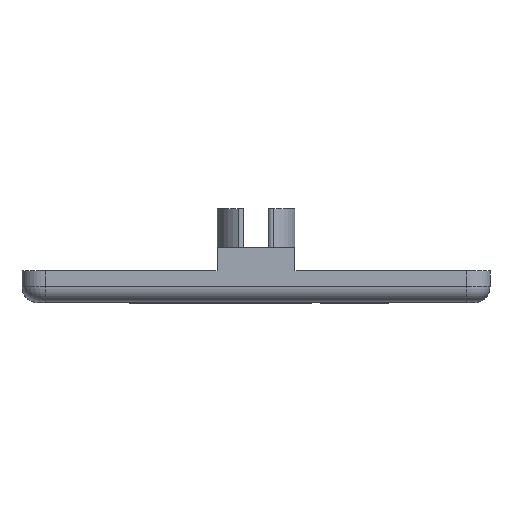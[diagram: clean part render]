
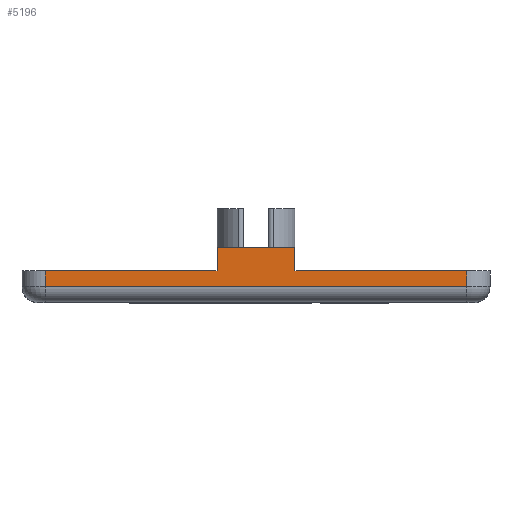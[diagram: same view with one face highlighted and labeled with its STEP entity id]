
A CAD part, top view. The second image highlights one B-rep face of the part: STEP entity #5196.
In plain terms, the highlighted planar face has unit normal (0, 0, 1).
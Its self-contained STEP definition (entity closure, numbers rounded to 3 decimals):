
#169 = DIRECTION ( 'NONE',  ( 1., 0., 0. ) ) ;
#362 = VERTEX_POINT ( 'NONE', #5164 ) ;
#544 = DIRECTION ( 'NONE',  ( 1., 0., 0. ) ) ;
#605 = ORIENTED_EDGE ( 'NONE', *, *, #763, .F. ) ;
#608 = EDGE_CURVE ( 'NONE', #1307, #6416, #7315, .T. ) ;
#746 = VERTEX_POINT ( 'NONE', #5059 ) ;
#763 = EDGE_CURVE ( 'NONE', #5088, #1307, #2126, .T. ) ;
#783 = CARTESIAN_POINT ( 'NONE',  ( -27., 4., 30. ) ) ;
#876 = VECTOR ( 'NONE', #544, 1000. ) ;
#895 = EDGE_CURVE ( 'NONE', #7505, #5556, #4561, .T. ) ;
#1307 = VERTEX_POINT ( 'NONE', #1891 ) ;
#1639 = CARTESIAN_POINT ( 'NONE',  ( 5., 7., 30. ) ) ;
#1709 = VECTOR ( 'NONE', #4206, 1000. ) ;
#1891 = CARTESIAN_POINT ( 'NONE',  ( 5., 7., 30. ) ) ;
#2079 = VECTOR ( 'NONE', #4481, 1000. ) ;
#2126 = LINE ( 'NONE', #7459, #4939 ) ;
#2142 = ORIENTED_EDGE ( 'NONE', *, *, #895, .F. ) ;
#2220 = AXIS2_PLACEMENT_3D ( 'NONE', #3745, #3174, #7381 ) ;
#2475 = LINE ( 'NONE', #2897, #876 ) ;
#2495 = CARTESIAN_POINT ( 'NONE',  ( -5., 7., 30. ) ) ;
#2576 = ORIENTED_EDGE ( 'NONE', *, *, #6896, .T. ) ;
#2897 = CARTESIAN_POINT ( 'NONE',  ( -27., 2., 30. ) ) ;
#3174 = DIRECTION ( 'NONE',  ( 0., 0., -1. ) ) ;
#3326 = CARTESIAN_POINT ( 'NONE',  ( 27., 4., 30. ) ) ;
#3439 = CARTESIAN_POINT ( 'NONE',  ( -27., 4., 30. ) ) ;
#3526 = CARTESIAN_POINT ( 'NONE',  ( -5., 4., 30. ) ) ;
#3560 = CARTESIAN_POINT ( 'NONE',  ( 5., 4., 30. ) ) ;
#3588 = LINE ( 'NONE', #7485, #2079 ) ;
#3629 = CARTESIAN_POINT ( 'NONE',  ( -27., 4., 30. ) ) ;
#3723 = VECTOR ( 'NONE', #4032, 1000. ) ;
#3745 = CARTESIAN_POINT ( 'NONE',  ( -27., 4., 30. ) ) ;
#3794 = ORIENTED_EDGE ( 'NONE', *, *, #608, .F. ) ;
#4032 = DIRECTION ( 'NONE',  ( 0., -1., 0. ) ) ;
#4172 = EDGE_LOOP ( 'NONE', ( #4961, #2576, #6665, #5944, #3794, #605, #7336, #2142 ) ) ;
#4206 = DIRECTION ( 'NONE',  ( 1., 0., 0. ) ) ;
#4481 = DIRECTION ( 'NONE',  ( 0., -1., 0. ) ) ;
#4561 = LINE ( 'NONE', #783, #7567 ) ;
#4577 = VERTEX_POINT ( 'NONE', #3326 ) ;
#4939 = VECTOR ( 'NONE', #5675, 1000. ) ;
#4961 = ORIENTED_EDGE ( 'NONE', *, *, #6303, .T. ) ;
#5059 = CARTESIAN_POINT ( 'NONE',  ( 27., 2., 30. ) ) ;
#5088 = VERTEX_POINT ( 'NONE', #2495 ) ;
#5110 = CARTESIAN_POINT ( 'NONE',  ( -27., 4., 30. ) ) ;
#5164 = CARTESIAN_POINT ( 'NONE',  ( -27., 2., 30. ) ) ;
#5196 = ADVANCED_FACE ( 'NONE', ( #5906 ), #6780, .F. ) ;
#5556 = VERTEX_POINT ( 'NONE', #3526 ) ;
#5675 = DIRECTION ( 'NONE',  ( 1., 0., 0. ) ) ;
#5871 = DIRECTION ( 'NONE',  ( 0., -1., 0. ) ) ;
#5906 = FACE_OUTER_BOUND ( 'NONE', #4172, .T. ) ;
#5944 = ORIENTED_EDGE ( 'NONE', *, *, #6976, .F. ) ;
#6089 = LINE ( 'NONE', #6438, #7477 ) ;
#6303 = EDGE_CURVE ( 'NONE', #7505, #362, #7120, .T. ) ;
#6323 = LINE ( 'NONE', #3629, #1709 ) ;
#6416 = VERTEX_POINT ( 'NONE', #3560 ) ;
#6438 = CARTESIAN_POINT ( 'NONE',  ( -5., 7., 30. ) ) ;
#6665 = ORIENTED_EDGE ( 'NONE', *, *, #7444, .F. ) ;
#6780 = PLANE ( 'NONE',  #2220 ) ;
#6896 = EDGE_CURVE ( 'NONE', #362, #746, #2475, .T. ) ;
#6976 = EDGE_CURVE ( 'NONE', #6416, #4577, #6323, .T. ) ;
#7040 = DIRECTION ( 'NONE',  ( 0., -1., 0. ) ) ;
#7120 = LINE ( 'NONE', #3439, #3723 ) ;
#7123 = VECTOR ( 'NONE', #5871, 1000. ) ;
#7315 = LINE ( 'NONE', #1639, #7123 ) ;
#7336 = ORIENTED_EDGE ( 'NONE', *, *, #7629, .T. ) ;
#7381 = DIRECTION ( 'NONE',  ( -1., 0., 0. ) ) ;
#7444 = EDGE_CURVE ( 'NONE', #4577, #746, #3588, .T. ) ;
#7459 = CARTESIAN_POINT ( 'NONE',  ( -5., 7., 30. ) ) ;
#7477 = VECTOR ( 'NONE', #7040, 1000. ) ;
#7485 = CARTESIAN_POINT ( 'NONE',  ( 27., 4., 30. ) ) ;
#7505 = VERTEX_POINT ( 'NONE', #5110 ) ;
#7567 = VECTOR ( 'NONE', #169, 1000. ) ;
#7629 = EDGE_CURVE ( 'NONE', #5088, #5556, #6089, .T. ) ;
